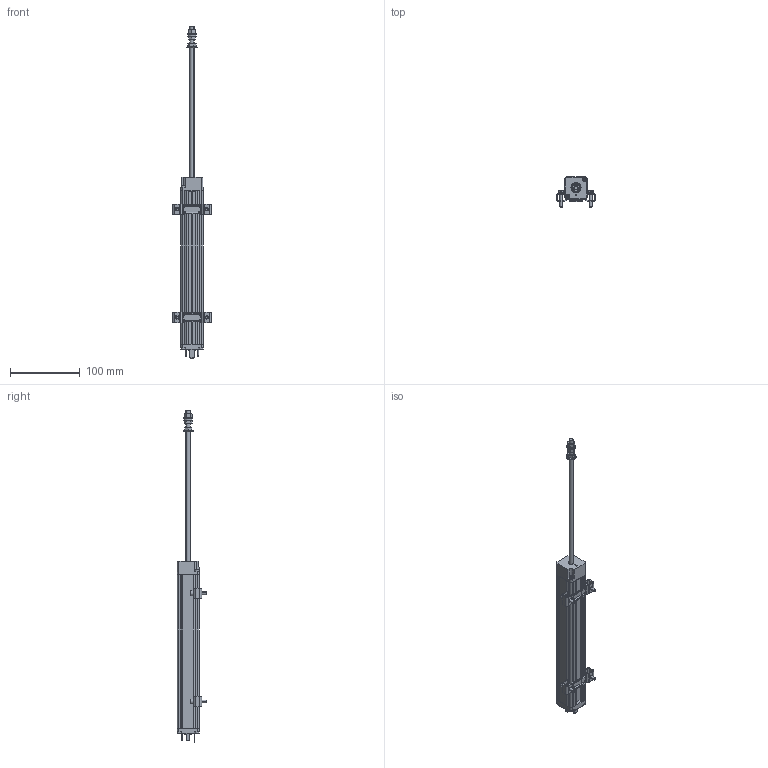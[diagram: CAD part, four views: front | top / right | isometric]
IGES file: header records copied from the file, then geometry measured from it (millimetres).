
Start section: SolidWorks IGES file using analytic representation for surfaces
Global section: file name: E:\Salzinger\I-net_3D\LWH_Essentials\LWH_prts\LWH_175.IGS; native system: SolidWorks 2008; preprocessor: SolidWorks 2008; author: salzinger; date: 081106.124341; units: millimetre
Bounding box: 56 x 43.08 x 477 mm (x, y, z)
Surface area: 68627.1 mm2 (no closed solid volume)
Topology: 0 solids, 0 shells, 1066 faces, 13290 edges, 13258 vertices
Faces by surface type: bspline 560, revolution 506
